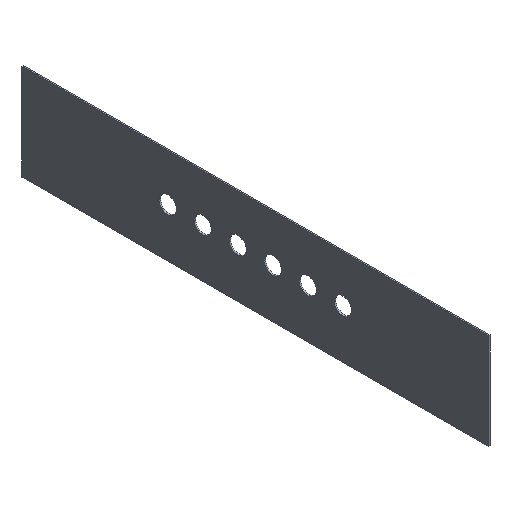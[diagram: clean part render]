
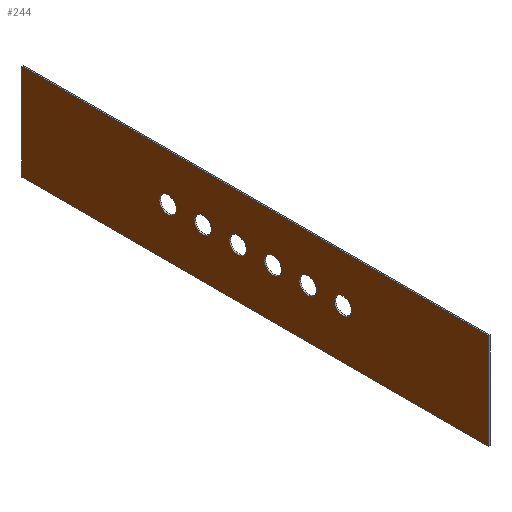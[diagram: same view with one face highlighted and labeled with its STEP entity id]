
A CAD part, isometric view. The second image highlights one B-rep face of the part: STEP entity #244.
In plain terms, the highlighted planar face has unit normal (-1, 0, 0).
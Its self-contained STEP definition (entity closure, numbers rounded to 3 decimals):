
#21=FACE_BOUND('',#63,.T.);
#22=FACE_BOUND('',#64,.T.);
#23=FACE_BOUND('',#65,.T.);
#24=FACE_BOUND('',#66,.T.);
#25=FACE_BOUND('',#67,.T.);
#26=FACE_BOUND('',#68,.T.);
#32=PLANE('',#282);
#44=FACE_OUTER_BOUND('',#62,.T.);
#62=EDGE_LOOP('',(#217,#218,#219,#220));
#63=EDGE_LOOP('',(#221));
#64=EDGE_LOOP('',(#222));
#65=EDGE_LOOP('',(#223));
#66=EDGE_LOOP('',(#224));
#67=EDGE_LOOP('',(#225));
#68=EDGE_LOOP('',(#226));
#75=LINE('',#391,#93);
#79=LINE('',#399,#97);
#82=LINE('',#405,#100);
#85=LINE('',#410,#103);
#93=VECTOR('',#329,10.);
#97=VECTOR('',#335,10.);
#100=VECTOR('',#340,10.);
#103=VECTOR('',#345,10.);
#105=CIRCLE('',#260,12.);
#107=CIRCLE('',#263,12.);
#109=CIRCLE('',#266,12.);
#111=CIRCLE('',#269,12.);
#113=CIRCLE('',#272,12.);
#115=CIRCLE('',#275,12.);
#117=VERTEX_POINT('',#353);
#119=VERTEX_POINT('',#359);
#121=VERTEX_POINT('',#365);
#123=VERTEX_POINT('',#371);
#125=VERTEX_POINT('',#377);
#127=VERTEX_POINT('',#383);
#129=VERTEX_POINT('',#389);
#130=VERTEX_POINT('',#390);
#133=VERTEX_POINT('',#398);
#135=VERTEX_POINT('',#404);
#137=EDGE_CURVE('',#117,#117,#105,.T.);
#140=EDGE_CURVE('',#119,#119,#107,.T.);
#143=EDGE_CURVE('',#121,#121,#109,.T.);
#146=EDGE_CURVE('',#123,#123,#111,.T.);
#149=EDGE_CURVE('',#125,#125,#113,.T.);
#152=EDGE_CURVE('',#127,#127,#115,.T.);
#155=EDGE_CURVE('',#129,#130,#75,.T.);
#159=EDGE_CURVE('',#130,#133,#79,.T.);
#162=EDGE_CURVE('',#133,#135,#82,.T.);
#165=EDGE_CURVE('',#135,#129,#85,.T.);
#217=ORIENTED_EDGE('',*,*,#165,.T.);
#218=ORIENTED_EDGE('',*,*,#155,.T.);
#219=ORIENTED_EDGE('',*,*,#159,.T.);
#220=ORIENTED_EDGE('',*,*,#162,.T.);
#221=ORIENTED_EDGE('',*,*,#152,.T.);
#222=ORIENTED_EDGE('',*,*,#149,.T.);
#223=ORIENTED_EDGE('',*,*,#146,.T.);
#224=ORIENTED_EDGE('',*,*,#143,.T.);
#225=ORIENTED_EDGE('',*,*,#140,.T.);
#226=ORIENTED_EDGE('',*,*,#137,.T.);
#244=ADVANCED_FACE('',(#44,#21,#22,#23,#24,#25,#26),#32,.F.);
#260=AXIS2_PLACEMENT_3D('',#354,#287,#288);
#263=AXIS2_PLACEMENT_3D('',#360,#294,#295);
#266=AXIS2_PLACEMENT_3D('',#366,#301,#302);
#269=AXIS2_PLACEMENT_3D('',#372,#308,#309);
#272=AXIS2_PLACEMENT_3D('',#378,#315,#316);
#275=AXIS2_PLACEMENT_3D('',#384,#322,#323);
#282=AXIS2_PLACEMENT_3D('',#413,#349,#350);
#287=DIRECTION('center_axis',(1.,0.,0.));
#288=DIRECTION('ref_axis',(0.,0.,-1.));
#294=DIRECTION('center_axis',(1.,0.,0.));
#295=DIRECTION('ref_axis',(0.,0.,-1.));
#301=DIRECTION('center_axis',(1.,0.,0.));
#302=DIRECTION('ref_axis',(0.,0.,-1.));
#308=DIRECTION('center_axis',(1.,0.,0.));
#309=DIRECTION('ref_axis',(0.,0.,-1.));
#315=DIRECTION('center_axis',(1.,0.,0.));
#316=DIRECTION('ref_axis',(0.,0.,-1.));
#322=DIRECTION('center_axis',(1.,0.,0.));
#323=DIRECTION('ref_axis',(0.,0.,-1.));
#329=DIRECTION('',(0.,-1.,0.));
#335=DIRECTION('',(0.,0.,1.));
#340=DIRECTION('',(0.,1.,0.));
#345=DIRECTION('',(0.,0.,-1.));
#349=DIRECTION('center_axis',(1.,0.,0.));
#350=DIRECTION('ref_axis',(0.,0.,-1.));
#353=CARTESIAN_POINT('',(565.,250.,22.));
#354=CARTESIAN_POINT('Origin',(565.,250.,10.));
#359=CARTESIAN_POINT('',(565.,450.,22.));
#360=CARTESIAN_POINT('Origin',(565.,450.,10.));
#365=CARTESIAN_POINT('',(565.,400.,22.));
#366=CARTESIAN_POINT('Origin',(565.,400.,10.));
#371=CARTESIAN_POINT('',(565.,350.,22.));
#372=CARTESIAN_POINT('Origin',(565.,350.,10.));
#377=CARTESIAN_POINT('',(565.,300.,22.));
#378=CARTESIAN_POINT('Origin',(565.,300.,10.));
#383=CARTESIAN_POINT('',(565.,200.,22.));
#384=CARTESIAN_POINT('Origin',(565.,200.,10.));
#389=CARTESIAN_POINT('',(565.,658.,-60.));
#390=CARTESIAN_POINT('',(565.,-8.,-60.));
#391=CARTESIAN_POINT('',(565.,658.,-60.));
#398=CARTESIAN_POINT('',(565.,-8.,77.));
#399=CARTESIAN_POINT('',(565.,-8.,-60.));
#404=CARTESIAN_POINT('',(565.,658.,77.));
#405=CARTESIAN_POINT('',(565.,-8.,77.));
#410=CARTESIAN_POINT('',(565.,658.,77.));
#413=CARTESIAN_POINT('Origin',(565.,325.,8.5));
